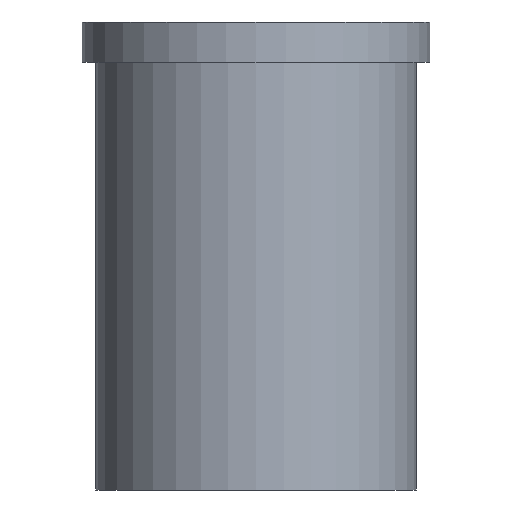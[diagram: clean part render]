
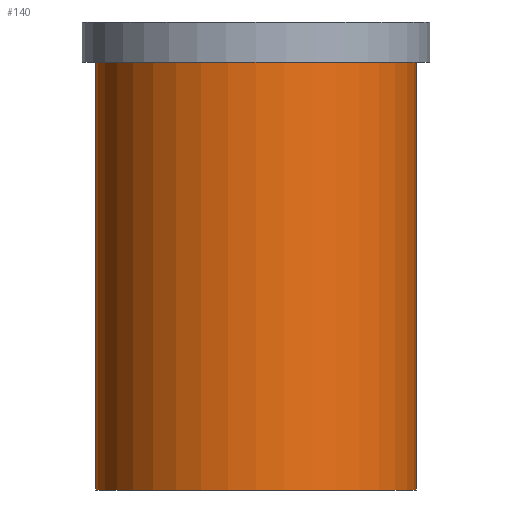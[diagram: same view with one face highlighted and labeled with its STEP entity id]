
A CAD part, front view. The second image highlights one B-rep face of the part: STEP entity #140.
In plain terms, the highlighted cylindrical face has radius 12 mm (diameter 24 mm), a partial arc.
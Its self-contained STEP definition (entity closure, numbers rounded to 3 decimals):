
#101=CYLINDRICAL_SURFACE('',#313,12.);
#107=LINE('',#441,#113);
#108=LINE('',#442,#114);
#113=VECTOR('',#383,1.);
#114=VECTOR('',#384,1.);
#127=FACE_OUTER_BOUND('',#165,.T.);
#140=ADVANCED_FACE('',(#127),#101,.T.);
#165=EDGE_LOOP('',(#211,#212,#213,#214));
#211=ORIENTED_EDGE('',*,*,#259,.T.);
#212=ORIENTED_EDGE('',*,*,#236,.F.);
#213=ORIENTED_EDGE('',*,*,#260,.F.);
#214=ORIENTED_EDGE('',*,*,#257,.T.);
#219=VERTEX_POINT('',#391);
#220=VERTEX_POINT('',#392);
#233=VERTEX_POINT('',#437);
#234=VERTEX_POINT('',#438);
#236=EDGE_CURVE('',#220,#219,#262,.T.);
#257=EDGE_CURVE('',#233,#234,#279,.T.);
#259=EDGE_CURVE('',#234,#219,#107,.T.);
#260=EDGE_CURVE('',#233,#220,#108,.T.);
#262=CIRCLE('',#283,12.);
#279=CIRCLE('',#310,12.);
#283=AXIS2_PLACEMENT_3D('',#393,#319,#320);
#310=AXIS2_PLACEMENT_3D('',#436,#377,#378);
#313=AXIS2_PLACEMENT_3D('',#443,#385,#386);
#319=DIRECTION('',(0.,0.,-1.));
#320=DIRECTION('',(0.,1.,0.));
#377=DIRECTION('',(0.,0.,-1.));
#378=DIRECTION('',(0.,1.,0.));
#383=DIRECTION('',(0.,0.,-1.));
#384=DIRECTION('',(0.,0.,-1.));
#385=DIRECTION('',(0.,0.,-1.));
#386=DIRECTION('',(0.,-1.,0.));
#391=CARTESIAN_POINT('',(-12.,0.,-32.));
#392=CARTESIAN_POINT('',(12.,0.,-32.));
#393=CARTESIAN_POINT('',(0.,0.,-32.));
#436=CARTESIAN_POINT('',(0.,0.,0.));
#437=CARTESIAN_POINT('',(12.,0.,0.));
#438=CARTESIAN_POINT('',(-12.,0.,0.));
#441=CARTESIAN_POINT('',(-12.,0.,-32.));
#442=CARTESIAN_POINT('',(12.,0.,-32.));
#443=CARTESIAN_POINT('',(0.,0.,0.));
